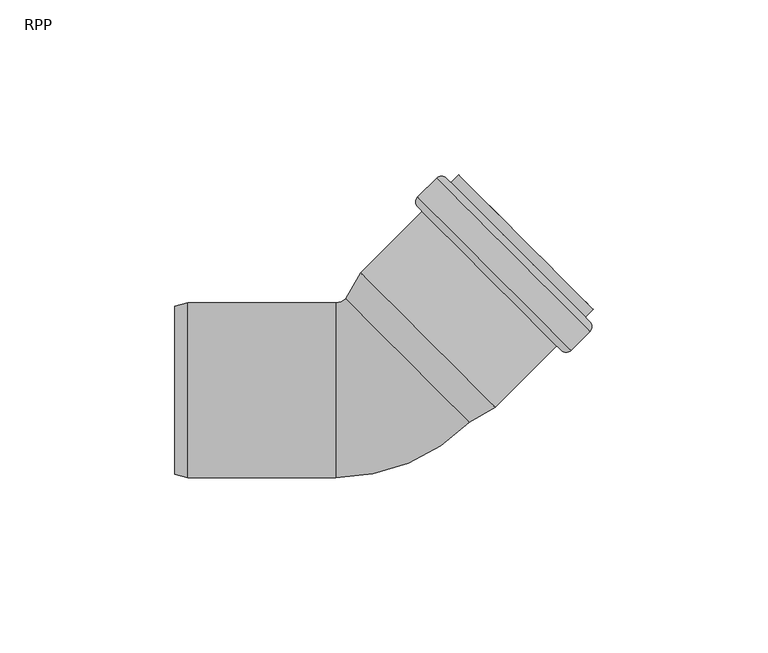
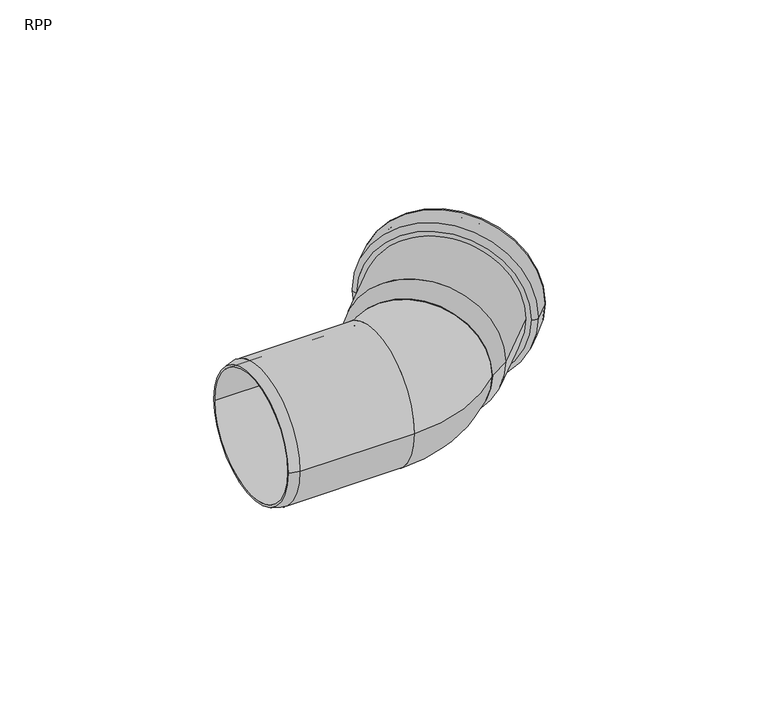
"""IFC4 building model written with IfcOpenShell, lengths in millimetres: pipe fitting geometry, RAUPIANO PLUS Bend : RPP."""

from ifc_helpers import new_model, si_unit, point, frame, origin, place, context, project, spatial, polyline, circle_curve, ellipse_curve, trimmed, source, transform, mapped, element, save
from ifc_brep_helpers import plane_surface, cylinder_surface, revolved_surface, advanced_brep


def rpp_97674159(model_context):
    return source(origin(), model_context, "Body", "AdvancedBrep", [
        advanced_brep(
        [(24.7806763, -7.7928696, 0.0), (-7.7928696, 24.7806763, 0.0), (-3.4133142, 32.366289, 0.0), (32.366289, -3.4133142, 0.0), (33.5329163, -4.9336925, 0.0), (-4.9336925, 33.5329163, 0.0), (-9.1837662, 26.1715729, 0.0), (26.1715729, -9.1837662, 0.0), (51.1324423, 12.6658334, 0.0), (12.6658334, 51.1324423, 0.0), (60.6076731, 16.7670527, 0.0), (16.7670527, 60.6076731, 0.0), (11.3930411, 55.2336616, 0.0), (55.2336616, 11.3930411, 0.0), (61.5269119, 23.060303, 0.0), (23.060303, 61.5269119, 0.0), (20.868272, 59.3348809, 0.0), (59.3348809, 20.868272, 0.0), (56.6478751, 20.868272, 0.0), (20.868272, 56.6478751, 0.0), (24.4038059, 60.1834091, 0.0), (60.1834091, 24.4038059, 0.0), (54.1730014, 13.0193867, 0.0), (13.0193867, 54.1730014, 0.0), (17.8277129, 58.9813275, 0.0), (58.9813275, 17.8277129, 0.0), (15.3528391, 51.1324423, 0.0), (51.1324423, 15.3528391, 0.0), (11.3930411, 52.4052345, 0.0), (52.4052345, 11.3930411, 0.0), (60.6076731, 19.5954798, 0.0), (19.5954798, 60.6076731, 0.0), (18.5348196, 58.9813275, 0.0), (58.9813275, 18.5348196, 0.0), (53.4658946, 13.0193867, 0.0), (13.0193867, 53.4658946, 0.0)],
        [
            (0, 1, circle_curve(frame((8.4939033, 8.4939033, 0.0), z_axis=(-0.7071067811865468, -0.7071067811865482, 0.0), x_axis=(-0.7071067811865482, 0.7071067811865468, 0.0)), 23.0329753)),
            (1, 2),
            (2, 3, circle_curve(frame((14.4764874, 14.4764874, 0.0), z_axis=(0.7071067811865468, 0.7071067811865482, 0.0), x_axis=(-0.7071067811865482, 0.7071067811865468, 0.0)), 25.3)),
            (3, 0),
            (4, 5, circle_curve(frame((14.2996119, 14.2996119, 0.0), z_axis=(-0.7071067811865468, -0.7071067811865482, 0.0), x_axis=(-0.7071067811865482, 0.7071067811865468, 0.0)), 27.2)),
            (5, 6),
            (6, 7, circle_curve(frame((8.4939033, 8.4939033, 0.0), z_axis=(0.7071067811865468, 0.7071067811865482, 0.0), x_axis=(-0.7071067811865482, 0.7071067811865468, 0.0)), 25.0)),
            (7, 4),
            (8, 9, circle_curve(frame((31.8991378, 31.8991378, 0.0), z_axis=(-0.7071067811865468, -0.7071067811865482, 0.0), x_axis=(-0.7071067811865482, 0.7071067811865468, 0.0)), 27.2)),
            (9, 5),
            (4, 8),
            (10, 11, circle_curve(frame((38.6873629, 38.6873629, 0.0), z_axis=(-0.7071067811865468, -0.7071067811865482, 0.0), x_axis=(-0.7071067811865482, 0.7071067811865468, 0.0)), 31.0)),
            (11, 12),
            (12, 13, circle_curve(frame((33.3133514, 33.3133514, 0.0), z_axis=(0.7071067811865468, 0.7071067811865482, 0.0), x_axis=(-0.7071067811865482, 0.7071067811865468, 0.0)), 31.0)),
            (13, 10),
            (14, 15, circle_curve(frame((42.2936075, 42.2936075, 0.0), z_axis=(-0.7071067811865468, -0.7071067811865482, 0.0), x_axis=(-0.7071067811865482, 0.7071067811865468, 0.0)), 27.2)),
            (15, 16),
            (16, 17, circle_curve(frame((40.1015765, 40.1015765, 0.0), z_axis=(0.7071067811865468, 0.7071067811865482, 0.0), x_axis=(-0.7071067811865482, 0.7071067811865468, 0.0)), 27.2)),
            (17, 14),
            (18, 19, circle_curve(frame((38.7580736, 38.7580736, 0.0), z_axis=(-0.7071067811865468, -0.7071067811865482, 0.0), x_axis=(-0.7071067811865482, 0.7071067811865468, 0.0)), 25.3)),
            (19, 20),
            (20, 21, circle_curve(frame((42.2936075, 42.2936075, 0.0), z_axis=(0.7071067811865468, 0.7071067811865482, 0.0), x_axis=(-0.7071067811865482, 0.7071067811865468, 0.0)), 25.3)),
            (21, 18),
            (22, 23, circle_curve(frame((33.5961941, 33.5961941, 0.0), z_axis=(-0.7071067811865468, -0.7071067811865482, 0.0), x_axis=(-0.7071067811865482, 0.7071067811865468, 0.0)), 29.1)),
            (23, 24),
            (24, 25, circle_curve(frame((38.4045202, 38.4045202, 0.0), z_axis=(0.7071067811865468, 0.7071067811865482, 0.0), x_axis=(-0.7071067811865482, 0.7071067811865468, 0.0)), 29.1)),
            (25, 22),
            (2, 26),
            (26, 27, circle_curve(frame((33.2426407, 33.2426407, 0.0), z_axis=(0.7071067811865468, 0.7071067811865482, 0.0), x_axis=(-0.7071067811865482, 0.7071067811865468, 0.0)), 25.3)),
            (27, 3),
            (1, 0, circle_curve(frame((8.4939033, 8.4939033, 0.0), z_axis=(-0.7071067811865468, -0.7071067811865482, 0.0), x_axis=(0.7071067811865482, -0.7071067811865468, 0.0)), 23.0329753)),
            (3, 2, circle_curve(frame((14.4764874, 14.4764874, 0.0), z_axis=(0.7071067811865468, 0.7071067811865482, 0.0), x_axis=(0.7071067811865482, -0.7071067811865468, 0.0)), 25.3)),
            (6, 7, circle_curve(frame((8.4939033, 8.4939033, 0.0), z_axis=(-0.7071067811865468, -0.7071067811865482, 0.0), x_axis=(0.7071067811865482, -0.7071067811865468, 0.0)), 25.0)),
            (5, 4, circle_curve(frame((14.2996119, 14.2996119, 0.0), z_axis=(-0.7071067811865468, -0.7071067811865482, 0.0), x_axis=(0.7071067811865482, -0.7071067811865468, 0.0)), 27.2)),
            (9, 8, circle_curve(frame((31.8991378, 31.8991378, 0.0), z_axis=(-0.7071067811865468, -0.7071067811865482, 0.0), x_axis=(0.7071067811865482, -0.7071067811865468, 0.0)), 27.2)),
            (28, 29, circle_curve(frame((31.8991378, 31.8991378, 0.0), z_axis=(-0.7071067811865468, -0.7071067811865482, 0.0), x_axis=(0.7071067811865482, -0.7071067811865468, 0.0)), 29.0)),
            (29, 28, circle_curve(frame((31.8991378, 31.8991378, 0.0), z_axis=(-0.7071067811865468, -0.7071067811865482, 0.0), x_axis=(-0.7071067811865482, 0.7071067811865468, 0.0)), 29.0)),
            (11, 10, circle_curve(frame((38.6873629, 38.6873629, 0.0), z_axis=(-0.7071067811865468, -0.7071067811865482, 0.0), x_axis=(0.7071067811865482, -0.7071067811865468, 0.0)), 31.0)),
            (13, 12, circle_curve(frame((33.3133514, 33.3133514, 0.0), z_axis=(0.7071067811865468, 0.7071067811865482, 0.0), x_axis=(0.7071067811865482, -0.7071067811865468, 0.0)), 31.0)),
            (30, 31, circle_curve(frame((40.1015765, 40.1015765, 0.0), z_axis=(0.7071067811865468, 0.7071067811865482, 0.0), x_axis=(0.7071067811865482, -0.7071067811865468, 0.0)), 29.0)),
            (31, 30, circle_curve(frame((40.1015765, 40.1015765, 0.0), z_axis=(0.7071067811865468, 0.7071067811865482, 0.0), x_axis=(-0.7071067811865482, 0.7071067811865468, 0.0)), 29.0)),
            (16, 17, circle_curve(frame((40.1015765, 40.1015765, 0.0), z_axis=(-0.7071067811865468, -0.7071067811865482, 0.0), x_axis=(0.7071067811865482, -0.7071067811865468, 0.0)), 27.2)),
            (15, 14, circle_curve(frame((42.2936075, 42.2936075, 0.0), z_axis=(-0.7071067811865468, -0.7071067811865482, 0.0), x_axis=(0.7071067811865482, -0.7071067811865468, 0.0)), 27.2)),
            (20, 21, circle_curve(frame((42.2936075, 42.2936075, 0.0), z_axis=(-0.7071067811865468, -0.7071067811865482, 0.0), x_axis=(0.7071067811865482, -0.7071067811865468, 0.0)), 25.3)),
            (19, 18, circle_curve(frame((38.7580736, 38.7580736, 0.0), z_axis=(-0.7071067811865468, -0.7071067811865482, 0.0), x_axis=(0.7071067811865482, -0.7071067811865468, 0.0)), 25.3)),
            (32, 33, circle_curve(frame((38.7580736, 38.7580736, 0.0), z_axis=(-0.7071067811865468, -0.7071067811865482, 0.0), x_axis=(0.7071067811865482, -0.7071067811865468, 0.0)), 28.6)),
            (33, 32, circle_curve(frame((38.7580736, 38.7580736, 0.0), z_axis=(-0.7071067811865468, -0.7071067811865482, 0.0), x_axis=(-0.7071067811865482, 0.7071067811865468, 0.0)), 28.6)),
            (23, 22, circle_curve(frame((33.5961941, 33.5961941, 0.0), z_axis=(-0.7071067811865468, -0.7071067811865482, 0.0), x_axis=(0.7071067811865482, -0.7071067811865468, 0.0)), 29.1)),
            (25, 24, circle_curve(frame((38.4045202, 38.4045202, 0.0), z_axis=(0.7071067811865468, 0.7071067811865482, 0.0), x_axis=(0.7071067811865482, -0.7071067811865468, 0.0)), 29.1)),
            (34, 35, circle_curve(frame((33.2426407, 33.2426407, 0.0), z_axis=(0.7071067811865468, 0.7071067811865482, 0.0), x_axis=(0.7071067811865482, -0.7071067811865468, 0.0)), 28.6)),
            (35, 34, circle_curve(frame((33.2426407, 33.2426407, 0.0), z_axis=(0.7071067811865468, 0.7071067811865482, 0.0), x_axis=(-0.7071067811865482, 0.7071067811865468, 0.0)), 28.6)),
            (26, 27, circle_curve(frame((33.2426407, 33.2426407, 0.0), z_axis=(-0.7071067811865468, -0.7071067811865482, 0.0), x_axis=(0.7071067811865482, -0.7071067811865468, 0.0)), 25.3)),
            (12, 28, circle_curve(frame((12.8072547, 53.819448, 0.0), z_axis=(0.0, 0.0, 1.0), x_axis=(0.7071067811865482, -0.7071067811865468, 0.0)), 2.0)),
            (29, 13, circle_curve(frame((53.819448, 12.8072547, 0.0), z_axis=(0.0, 0.0, 1.0), x_axis=(-0.7071067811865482, 0.7071067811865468, 0.0)), 2.0)),
            (31, 11, circle_curve(frame((18.1812662, 59.1934596, 0.0), z_axis=(0.0, 0.0, 1.0), x_axis=(0.7071067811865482, -0.7071067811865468, 0.0)), 2.0)),
            (10, 30, circle_curve(frame((59.1934596, 18.1812662, 0.0), z_axis=(0.0, 0.0, 1.0), x_axis=(-0.7071067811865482, 0.7071067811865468, 0.0)), 2.0)),
            (24, 32, circle_curve(frame((18.1812662, 58.6277741, 0.0), z_axis=(0.0, 0.0, -1.0), x_axis=(0.7071067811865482, -0.7071067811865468, 0.0)), 0.5)),
            (33, 25, circle_curve(frame((58.6277741, 18.1812662, 0.0), z_axis=(0.0, 0.0, -1.0), x_axis=(-0.7071067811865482, 0.7071067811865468, 0.0)), 0.5)),
            (35, 23, circle_curve(frame((13.3729401, 53.819448, 0.0), z_axis=(0.0, 0.0, -1.0), x_axis=(0.7071067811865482, -0.7071067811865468, 0.0)), 0.5)),
            (22, 34, circle_curve(frame((53.819448, 13.3729401, 0.0), z_axis=(0.0, 0.0, -1.0), x_axis=(-0.7071067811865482, 0.7071067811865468, 0.0)), 0.5)),
        ],
        [
            revolved_surface(polyline([(-3.4133142, 32.366289, 0.0), (-7.7928696, 24.7806763, 0.0)]), (8.4939033, 8.4939033, 0.0), (0.7071067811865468, 0.7071067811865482, 0.0)),
            revolved_surface(polyline([(-9.1837662, 26.1715729, 0.0), (-4.9336925, 33.5329163, 0.0)]), (8.4939033, 8.4939033, 0.0), (0.7071067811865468, 0.7071067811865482, 0.0)),
            cylinder_surface(frame((8.4939033, 8.4939033, 0.0), z_axis=(0.7071067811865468, 0.7071067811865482, 0.0), x_axis=(-0.7071067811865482, 0.7071067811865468, 0.0)), 27.2),
            cylinder_surface(frame((8.4939033, 8.4939033, 0.0), z_axis=(0.7071067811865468, 0.7071067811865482, 0.0), x_axis=(-0.7071067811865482, 0.7071067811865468, 0.0)), 31.0),
            revolved_surface(polyline([(24.403805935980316, 60.183409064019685, 0.0), (20.86827198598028, 56.64787511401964, 0.0)]), (8.4939033, 8.4939033, 0.0), (0.7071067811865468, 0.7071067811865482, 0.0)),
            revolved_surface(polyline([(17.827712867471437, 58.98132753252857, 0.0), (13.019386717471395, 54.17300138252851, 0.0)]), (8.4939033, 8.4939033, 0.0), (0.7071067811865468, 0.7071067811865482, 0.0)),
            revolved_surface(polyline([(15.352839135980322, 51.13244226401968, 0.0), (-3.4133141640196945, 32.366288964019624, 0.0)]), (8.4939033, 8.4939033, 0.0), (0.7071067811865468, 0.7071067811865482, 0.0)),
            revolved_surface(polyline([(32.366289, -3.4133142, 0.0), (24.7806763, -7.7928696, 0.0)]), (8.4939033, 8.4939033, 0.0), (0.7071067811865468, 0.7071067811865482, 0.0)),
            plane_surface(frame((8.4939033, 8.4939033, 0.0), z_axis=(-0.7071067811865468, -0.7071067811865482, 0.0), x_axis=(0.7071067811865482, -0.7071067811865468, 0.0))),
            revolved_surface(polyline([(26.1715729, -9.1837662, 0.0), (33.5329163, -4.9336925, 0.0)]), (8.4939033, 8.4939033, 0.0), (0.7071067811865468, 0.7071067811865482, 0.0)),
            cylinder_surface(frame((8.4939033, 8.4939033, 0.0), z_axis=(0.7071067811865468, 0.7071067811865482, 0.0), x_axis=(0.7071067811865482, -0.7071067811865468, 0.0)), 27.2),
            plane_surface(frame((31.8991378, 31.8991378, 0.0), z_axis=(-0.7071067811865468, -0.7071067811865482, 0.0), x_axis=(0.7071067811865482, -0.7071067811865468, 0.0))),
            cylinder_surface(frame((8.4939033, 8.4939033, 0.0), z_axis=(0.7071067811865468, 0.7071067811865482, 0.0), x_axis=(0.7071067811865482, -0.7071067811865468, 0.0)), 31.0),
            plane_surface(frame((40.1015765, 40.1015765, 0.0), z_axis=(0.7071067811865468, 0.7071067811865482, 0.0), x_axis=(0.7071067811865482, -0.7071067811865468, 0.0))),
            plane_surface(frame((42.2936075, 42.2936075, 0.0), z_axis=(0.7071067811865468, 0.7071067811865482, 0.0), x_axis=(0.7071067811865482, -0.7071067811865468, 0.0))),
            revolved_surface(polyline([(60.183409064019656, 24.403805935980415, 0.0), (56.64787511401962, 20.868271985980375, 0.0)]), (8.4939033, 8.4939033, 0.0), (0.7071067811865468, 0.7071067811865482, 0.0)),
            plane_surface(frame((38.7580736, 38.7580736, 0.0), z_axis=(-0.7071067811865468, -0.7071067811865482, 0.0), x_axis=(0.7071067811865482, -0.7071067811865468, 0.0))),
            revolved_surface(polyline([(58.98132753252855, 17.82771286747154, 0.0), (54.17300138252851, 13.019386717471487, 0.0)]), (8.4939033, 8.4939033, 0.0), (0.7071067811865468, 0.7071067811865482, 0.0)),
            plane_surface(frame((33.2426407, 33.2426407, 0.0), z_axis=(0.7071067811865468, 0.7071067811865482, 0.0), x_axis=(0.7071067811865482, -0.7071067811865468, 0.0))),
            revolved_surface(polyline([(51.13244226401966, 15.35283913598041, 0.0), (32.366288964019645, -3.4133141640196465, 0.0)]), (8.4939033, 8.4939033, 0.0), (0.7071067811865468, 0.7071067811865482, 0.0)),
            revolved_surface(trimmed(ellipse_curve(frame((12.8072547, 53.819448, 0.0), z_axis=(0.0, 0.0, -1.0), x_axis=(0.7071067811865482, -0.7071067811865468, 0.0)), 2.0, 2.0), [point((11.3930411, 52.4052345, 0.0))], [point((11.3930411, 55.2336616, 0.0))], True, "CARTESIAN"), (8.4939033, 8.4939033, 0.0), (0.7071067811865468, 0.7071067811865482, 0.0)),
            revolved_surface(trimmed(ellipse_curve(frame((18.1812662, 59.1934596, 0.0), z_axis=(0.0, 0.0, -1.0), x_axis=(0.7071067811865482, -0.7071067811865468, 0.0)), 2.0, 2.0), [point((16.7670527, 60.6076731, 0.0))], [point((19.5954798, 60.6076731, 0.0))], True, "CARTESIAN"), (8.4939033, 8.4939033, 0.0), (0.7071067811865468, 0.7071067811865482, 0.0)),
            revolved_surface(trimmed(ellipse_curve(frame((18.1812662, 58.6277741, 0.0), z_axis=(0.0, 0.0, 1.0), x_axis=(0.7071067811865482, -0.7071067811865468, 0.0)), 0.5, 0.5), [point((18.5348196, 58.9813275, 0.0))], [point((17.8277129, 58.9813275, 0.0))], True, "CARTESIAN"), (8.4939033, 8.4939033, 0.0), (0.7071067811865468, 0.7071067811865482, 0.0)),
            revolved_surface(trimmed(ellipse_curve(frame((13.3729401, 53.819448, 0.0), z_axis=(0.0, 0.0, 1.0), x_axis=(0.7071067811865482, -0.7071067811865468, 0.0)), 0.5, 0.5), [point((13.0193867, 54.1730014, 0.0))], [point((13.0193867, 53.4658946, 0.0))], True, "CARTESIAN"), (8.4939033, 8.4939033, 0.0), (0.7071067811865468, 0.7071067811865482, 0.0)),
            revolved_surface(trimmed(ellipse_curve(frame((53.819448, 12.8072547, 0.0), z_axis=(0.0, 0.0, 1.0), x_axis=(-0.7071067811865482, 0.7071067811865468, 0.0)), 2.0, 2.0), [point((52.4052345, 11.3930411, 0.0))], [point((55.2336616, 11.3930411, 0.0))], True, "CARTESIAN"), (8.4939033, 8.4939033, 0.0), (0.7071067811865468, 0.7071067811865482, 0.0)),
            revolved_surface(trimmed(ellipse_curve(frame((59.1934596, 18.1812662, 0.0), z_axis=(0.0, 0.0, 1.0), x_axis=(-0.7071067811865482, 0.7071067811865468, 0.0)), 2.0, 2.0), [point((60.6076731, 16.7670527, 0.0))], [point((60.6076731, 19.5954798, 0.0))], True, "CARTESIAN"), (8.4939033, 8.4939033, 0.0), (0.7071067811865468, 0.7071067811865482, 0.0)),
            revolved_surface(trimmed(ellipse_curve(frame((58.6277741, 18.1812662, 0.0), z_axis=(0.0, 0.0, -1.0), x_axis=(-0.7071067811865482, 0.7071067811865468, 0.0)), 0.5, 0.5), [point((58.9813275, 18.5348196, 0.0))], [point((58.9813275, 17.8277129, 0.0))], True, "CARTESIAN"), (8.4939033, 8.4939033, 0.0), (0.7071067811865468, 0.7071067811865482, 0.0)),
            revolved_surface(trimmed(ellipse_curve(frame((53.819448, 13.3729401, 0.0), z_axis=(0.0, 0.0, -1.0), x_axis=(-0.7071067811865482, 0.7071067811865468, 0.0)), 0.5, 0.5), [point((54.1730014, 13.0193867, 0.0))], [point((53.4658946, 13.0193867, 0.0))], True, "CARTESIAN"), (8.4939033, 8.4939033, 0.0), (0.7071067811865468, 0.7071067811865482, 0.0)),
        ],
        [
            (0, [[1, 2, 3, 4]]),
            (1, [[5, 6, 7, 8]]),
            (2, [[9, 10, -5, 11]]),
            (3, [[12, 13, 14, 15]]),
            (2, [[16, 17, 18, 19]]),
            (4, [[20, 21, 22, 23]]),
            (5, [[24, 25, 26, 27]]),
            (6, [[-3, 28, 29, 30]]),
            (7, [[31, -4, 32, -2]]),
            (8, [[33, -7], [-31, -1]]),
            (9, [[34, -8, -33, -6]]),
            (10, [[35, -11, -34, -10]]),
            (11, [[36, 37], [-35, -9]]),
            (12, [[38, -15, 39, -13]]),
            (13, [[40, 41], [42, -18]]),
            (10, [[43, -19, -42, -17]]),
            (14, [[-43, -16], [44, -22]]),
            (15, [[45, -23, -44, -21]]),
            (16, [[46, 47], [-45, -20]]),
            (17, [[48, -27, 49, -25]]),
            (18, [[50, 51], [52, -29]]),
            (19, [[-32, -30, -52, -28]]),
            (20, [[-14, 53, -37, 54]]),
            (21, [[-41, 55, -12, 56]]),
            (22, [[-26, 57, -47, 58]]),
            (23, [[-51, 59, -24, 60]]),
            (24, [[-39, -54, -36, -53]]),
            (25, [[-40, -56, -38, -55]]),
            (26, [[-49, -58, -46, -57]]),
            (27, [[-50, -60, -48, -59]]),
        ],
    ),
        advanced_brep(
        [(-12.0121933, 23.2, 0.0), (-12.0121933, -23.2, 0.0), (-58.0121933, -23.2, 0.0), (-58.0121933, 23.2, 0.0), (-54.2801425, 25.0, 0.0), (-54.2801425, -25.0, 0.0), (-12.0121933, -25.0, 0.0), (-12.0121933, 25.0, 0.0), (-58.0121933, 24.0, 0.0), (-58.0121933, -24.0, 0.0)],
        [
            (0, 1, circle_curve(frame((-12.0121933, 0.0, 0.0), z_axis=(1.0, 0.0, 0.0), x_axis=(0.0, -1.0, 0.0)), 23.2)),
            (1, 2),
            (2, 3, circle_curve(frame((-58.0121933, 0.0, 0.0), z_axis=(-1.0, 0.0, 0.0), x_axis=(0.0, -1.0, 0.0)), 23.2)),
            (3, 0),
            (4, 5, circle_curve(frame((-54.2801425, 0.0, 0.0), z_axis=(1.0, 0.0, 0.0), x_axis=(0.0, -1.0, 0.0)), 25.0)),
            (5, 6),
            (6, 7, circle_curve(frame((-12.0121933, 0.0, 0.0), z_axis=(-1.0, 0.0, 0.0), x_axis=(0.0, -1.0, 0.0)), 25.0)),
            (7, 4),
            (8, 9, circle_curve(frame((-58.0121933, 0.0, 0.0), z_axis=(1.0, 0.0, 0.0), x_axis=(0.0, -1.0, 0.0)), 24.0)),
            (9, 5),
            (4, 8),
            (1, 0, circle_curve(frame((-12.0121933, 0.0, 0.0), z_axis=(1.0, 0.0, 0.0), x_axis=(0.0, 1.0, 0.0)), 23.2)),
            (3, 2, circle_curve(frame((-58.0121933, 0.0, 0.0), z_axis=(-1.0, 0.0, 0.0), x_axis=(0.0, 1.0, 0.0)), 23.2)),
            (6, 7, circle_curve(frame((-12.0121933, 0.0, 0.0), z_axis=(1.0, 0.0, 0.0), x_axis=(0.0, 1.0, 0.0)), 25.0)),
            (5, 4, circle_curve(frame((-54.2801425, 0.0, 0.0), z_axis=(1.0, 0.0, 0.0), x_axis=(0.0, 1.0, 0.0)), 25.0)),
            (9, 8, circle_curve(frame((-58.0121933, 0.0, 0.0), z_axis=(1.0, 0.0, 0.0), x_axis=(0.0, 1.0, 0.0)), 24.0)),
        ],
        [
            revolved_surface(polyline([(-58.0121933, -23.2, 0.0), (-12.0121933, -23.2, 0.0)]), (-12.0121933, 0.0, 0.0), (-1.0, 0.0, 0.0)),
            cylinder_surface(frame((-12.0121933, 0.0, 0.0), z_axis=(-1.0, 0.0, 0.0), x_axis=(0.0, -1.0, 0.0)), 25.0),
            revolved_surface(polyline([(-54.2801425, -25.0, 0.0), (-58.0121933, -24.0, 0.0)]), (-12.0121933, 0.0, 0.0), (-1.0, 0.0, 0.0)),
            revolved_surface(polyline([(-58.0121933, 23.2, 0.0), (-12.0121933, 23.2, 0.0)]), (-12.0121933, 0.0, 0.0), (-1.0, 0.0, 0.0)),
            plane_surface(frame((-12.0121933, 0.0, 0.0), z_axis=(1.0, 0.0, 0.0), x_axis=(0.0, 1.0, 0.0))),
            cylinder_surface(frame((-12.0121933, 0.0, 0.0), z_axis=(-1.0, 0.0, 0.0), x_axis=(0.0, 1.0, 0.0)), 25.0),
            revolved_surface(polyline([(-54.2801425, 25.0, 0.0), (-58.0121933, 24.0, 0.0)]), (-12.0121933, 0.0, 0.0), (-1.0, 0.0, 0.0)),
            plane_surface(frame((-58.0121933, 0.0, 0.0), z_axis=(-1.0, 0.0, 0.0), x_axis=(0.0, 1.0, 0.0))),
        ],
        [
            (0, [[1, 2, 3, 4]]),
            (1, [[5, 6, 7, 8]]),
            (2, [[9, 10, -5, 11]]),
            (3, [[12, -4, 13, -2]]),
            (4, [[14, -7], [-12, -1]]),
            (5, [[15, -8, -14, -6]]),
            (6, [[16, -11, -15, -10]]),
            (7, [[-16, -9], [-13, -3]]),
        ],
    ),
        advanced_brep(
        [(-12.0121933, -25.0, 0.0), (-12.0121933, 25.0, 0.0), (-12.0121933, -23.2, 0.0), (-12.0121933, 23.2, 0.0), (26.1715729, -9.1837662, 0.0), (-9.1837662, 26.1715729, 0.0), (24.8987807, -7.910974, 0.0), (-7.910974, 24.8987807, 0.0)],
        [
            (0, 1, circle_curve(frame((-12.0121933, 0.0, 0.0), z_axis=(-1.0, 0.0, 0.0), x_axis=(0.0, 1.0, 0.0)), 25.0)),
            (1, 0, circle_curve(frame((-12.0121933, 0.0, 0.0), z_axis=(-1.0, 0.0, 0.0), x_axis=(0.0, 1.0, 0.0)), 25.0)),
            (2, 3, circle_curve(frame((-12.0121933, 0.0, 0.0), z_axis=(1.0, 0.0, 0.0), x_axis=(0.0, 1.0, 0.0)), 23.2)),
            (3, 2, circle_curve(frame((-12.0121933, 0.0, 0.0), z_axis=(1.0, 0.0, 0.0), x_axis=(0.0, 1.0, 0.0)), 23.2)),
            (4, 5, circle_curve(frame((8.4939033, 8.4939033, 0.0), z_axis=(0.7071067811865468, 0.7071067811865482, 0.0), x_axis=(-0.7071067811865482, 0.7071067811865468, 0.0)), 25.0)),
            (5, 4, circle_curve(frame((8.4939033, 8.4939033, 0.0), z_axis=(0.7071067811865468, 0.7071067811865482, 0.0), x_axis=(-0.7071067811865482, 0.7071067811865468, 0.0)), 25.0)),
            (6, 7, circle_curve(frame((8.4939033, 8.4939033, 0.0), z_axis=(-0.7071067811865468, -0.7071067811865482, 0.0), x_axis=(-0.7071067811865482, 0.7071067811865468, 0.0)), 23.2)),
            (7, 6, circle_curve(frame((8.4939033, 8.4939033, 0.0), z_axis=(-0.7071067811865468, -0.7071067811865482, 0.0), x_axis=(-0.7071067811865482, 0.7071067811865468, 0.0)), 23.2)),
            (7, 3, circle_curve(frame((-12.0121933, 29.0, 0.0), z_axis=(0.0, 0.0, -1.0), x_axis=(0.0, -1.0, 0.0)), 5.8)),
            (2, 6, circle_curve(frame((-12.0121933, 29.0, 0.0), z_axis=(0.0, 0.0, 1.0), x_axis=(0.0, -1.0, 0.0)), 52.2)),
            (5, 1, circle_curve(frame((-12.0121933, 29.0, 0.0), z_axis=(0.0, 0.0, -1.0), x_axis=(0.0, -1.0, 0.0)), 4.0)),
            (0, 4, circle_curve(frame((-12.0121933, 29.0, 0.0), z_axis=(0.0, 0.0, 1.0), x_axis=(0.0, -1.0, 0.0)), 54.0)),
        ],
        [
            plane_surface(frame((-12.0121933, 0.0, 0.0), z_axis=(-1.0, 0.0, 0.0), x_axis=(0.0, 0.0, 1.0))),
            plane_surface(frame((8.4939033, 8.4939033, 0.0), z_axis=(0.7071067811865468, 0.7071067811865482, 0.0), x_axis=(0.0, 0.0, 1.0))),
            revolved_surface(trimmed(ellipse_curve(frame((-12.0121933, 0.0, 0.0), z_axis=(1.0, 0.0, 0.0), x_axis=(0.0, 1.0, 0.0)), 23.2, 23.2), [point((-12.0121933, -23.2, 0.0))], [point((-12.0121933, 23.2, 0.0))], True, "CARTESIAN"), (-12.0121933, 29.0, 0.0), (0.0, 0.0, 1.0)),
            revolved_surface(trimmed(ellipse_curve(frame((-12.0121933, 0.0, 0.0), z_axis=(1.0, 0.0, 0.0), x_axis=(0.0, 1.0, 0.0)), 23.2, 23.2), [point((-12.0121933, 23.2, 0.0))], [point((-12.0121933, -23.2, 0.0))], True, "CARTESIAN"), (-12.0121933, 29.0, 0.0), (0.0, 0.0, 1.0)),
            revolved_surface(trimmed(ellipse_curve(frame((-12.0121933, 0.0, 0.0), z_axis=(-1.0, 0.0, 0.0), x_axis=(0.0, 1.0, 0.0)), 25.0, 25.0), [point((-12.0121933, -25.0, 0.0))], [point((-12.0121933, 25.0, 0.0))], True, "CARTESIAN"), (-12.0121933, 29.0, 0.0), (0.0, 0.0, 1.0)),
            revolved_surface(trimmed(ellipse_curve(frame((-12.0121933, 0.0, 0.0), z_axis=(-1.0, 0.0, 0.0), x_axis=(0.0, 1.0, 0.0)), 25.0, 25.0), [point((-12.0121933, 25.0, 0.0))], [point((-12.0121933, -25.0, 0.0))], True, "CARTESIAN"), (-12.0121933, 29.0, 0.0), (0.0, 0.0, 1.0)),
        ],
        [
            (0, [[1, 2], [3, 4]]),
            (1, [[5, 6], [7, 8]]),
            (2, [[9, -3, 10, -8]]),
            (3, [[-10, -4, -9, -7]]),
            (4, [[11, -1, 12, -6]]),
            (5, [[-12, -2, -11, -5]]),
        ],
    ),
    ])


if __name__ == "__main__":
    model = new_model("IFC4")
    model_context = context("Model", 3, world=origin())
    ifc_project = project(units=[si_unit("LENGTHUNIT", "METRE", prefix="MILLI")], contexts=[model_context])
    site = spatial("IfcSite", under=ifc_project)
    building = spatial("IfcBuilding", under=site)
    placement = place(None, origin())
    rpp_shape = rpp_97674159(model_context)
    element("IfcPipeFitting", 1, ObjectType="RAUPIANO PLUS Bend : RPP", at=placement, inside=building, context=model_context, shape_type="MappedRepresentation", body=[
        mapped(rpp_shape, transform((0.0, 0.0, 0.0), x_axis=(1.0, 0.0, 0.0), y_axis=(0.0, 1.0, 0.0), z_axis=(0.0, 0.0, 1.0))),
    ])
    save(model, "model.ifc")
